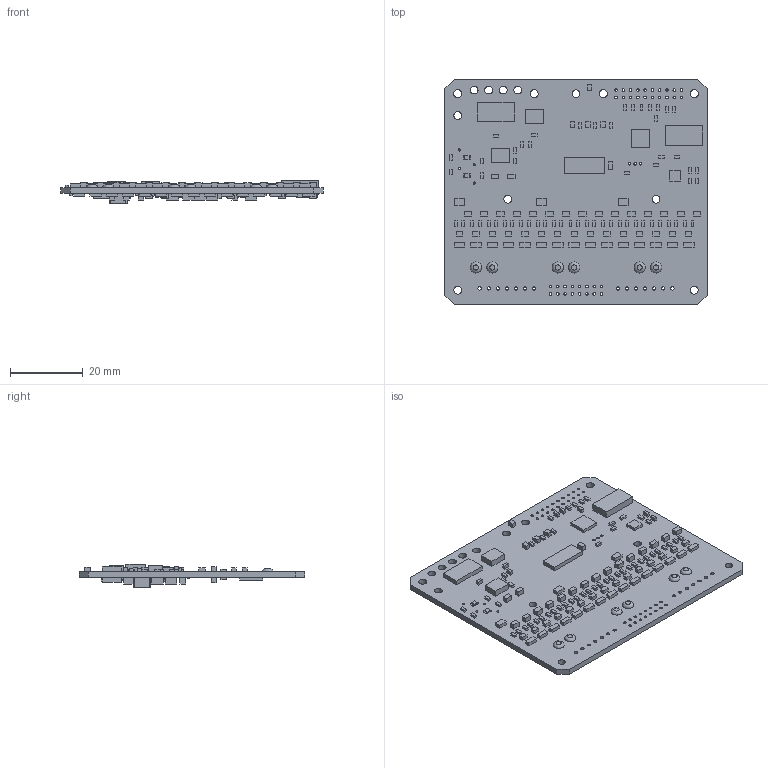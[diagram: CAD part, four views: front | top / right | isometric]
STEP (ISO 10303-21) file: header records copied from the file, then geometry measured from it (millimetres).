
FILE_DESCRIPTION(('eMachineShop Model'),'2;1');
FILE_NAME('eMachineShop Shape Model','2024-11-28T15:40:46',('Author'),( 'eMachineShop'),'eMachineShop CAD STEP Processor','eMachineShop CAD' ,'Unknown');
FILE_SCHEMA(('AUTOMOTIVE_DESIGN { 1 0 10303 214 1 1 1 1 }'));
Products named in the file (1): eMachineShop CAD STEP Translator 1
Bounding box: 72 x 62 x 6.4 mm (x, y, z)
Volume: 8169 mm3; surface area: 11156 mm2
Topology: 1 solids, 1 shells, 1097 faces, 2665 edges, 1772 vertices
Faces by surface type: extrusion 804, plane 208, cylinder 79, revolution 6
Full cylindrical faces by diameter (mm): 0.45 x2, 0.61 x4, 0.7 x39, 0.9 x14, 2.1 x6, 2.15 x4, 2.25 x4, 3.048 x6
Entity records: 64568 total; most frequent: CARTESIAN_POINT 15913, DIRECTION 6167, ORIENTED_EDGE 5330, PCURVE 5330, DEFINITIONAL_REPRESENTATION 5330, VECTOR 5235, LINE 4431, B_SPLINE_CURVE_WITH_KNOTS 3986
